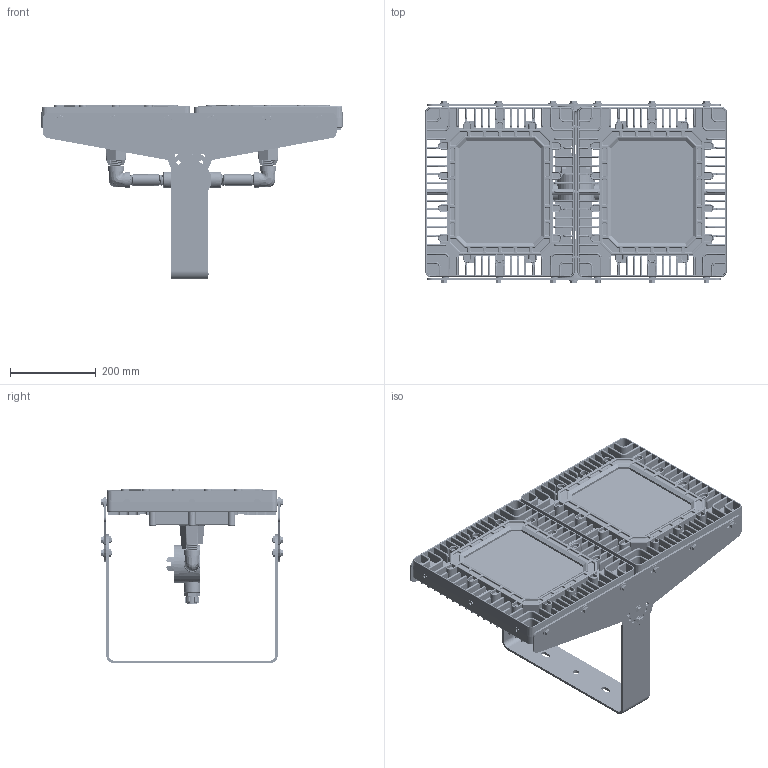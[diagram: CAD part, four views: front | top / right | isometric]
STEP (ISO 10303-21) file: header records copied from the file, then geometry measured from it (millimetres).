
FILE_DESCRIPTION (( 'STEP AP214' ), '1' );
FILE_NAME ('EPL-HB-2X150LED-RT.STEP', '2016-02-10T20:30:20', ( '' ), ( '' ), 'SwSTEP 2.0', 'SolidWorks 2016', '' );
FILE_SCHEMA (( 'AUTOMOTIVE_DESIGN' ));
Length unit declared in the file: inch
Products named in the file (13): .75 x 1.5 nipple; 3 way .75; bracket for all; bracket for 2; EPL-HB-2X150LED-RT; EPL-HB-150LED-RT Base; 4830K196_4830K196; 4464K150_4464K15; hex jam nut_ai_HJNUT 0.3750-16-D-N; hex bolt_ai_HBOLT 0.3750-16x0.75x0.75-N; hex bolt_ai_HBOLT 0.3125-18x0.3125x0.3125-N; flat washer type a narrow_ai_Preferred Narrow FW 0.375; 1.215 cord grip
Assembly tree (49 placements, depth 2):
  EPL-HB-2X150LED-RT
    bracket for 2  x2
    bracket for all
    3 way .75
    .75 x 1.5 nipple  x2
    1.215 cord grip
    flat washer type a narrow_ai_Preferred Narrow FW 0.375  x16
    hex bolt_ai_HBOLT 0.3125-18x0.3125x0.3125-N  x12
    hex bolt_ai_HBOLT 0.3750-16x0.75x0.75-N  x4
    hex jam nut_ai_HJNUT 0.3750-16-D-N  x4
    4464K150_4464K15  x2
    4830K196_4830K196  x2
    EPL-HB-150LED-RT Base  x2
Bounding box: 707.41 x 427.44 x 408.07 mm (x, y, z)
Volume: 12339328 mm3; surface area: 2236600.6 mm2
Topology: 49 solids, 49 shells, 6065 faces, 15838 edges, 9798 vertices
Faces by surface type: plane 2571, cylinder 2260, torus 704, cone 390, bspline 140
Entity records: 119504 total; most frequent: CARTESIAN_POINT 46853, ORIENTED_EDGE 15548, DIRECTION 14777, EDGE_CURVE 7774, AXIS2_PLACEMENT_3D 5186, VERTEX_POINT 4823, LINE 4405, VECTOR 4405
